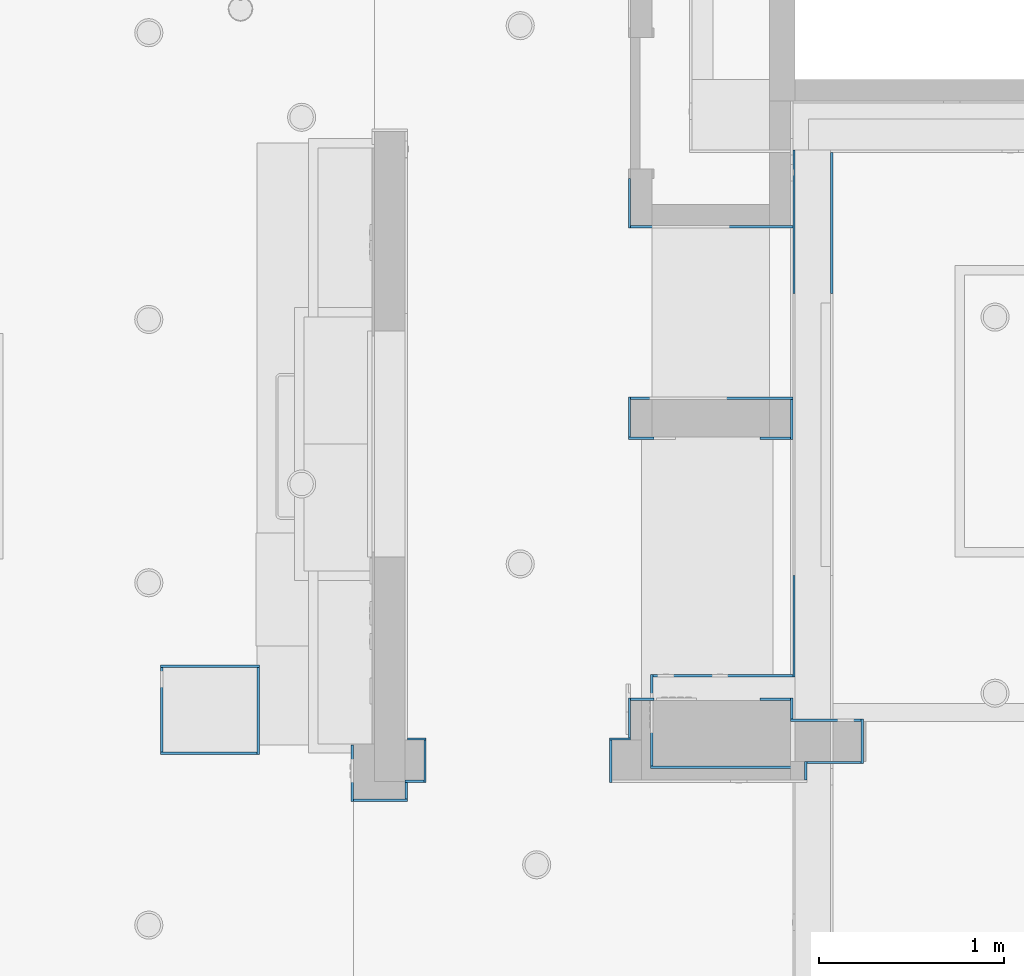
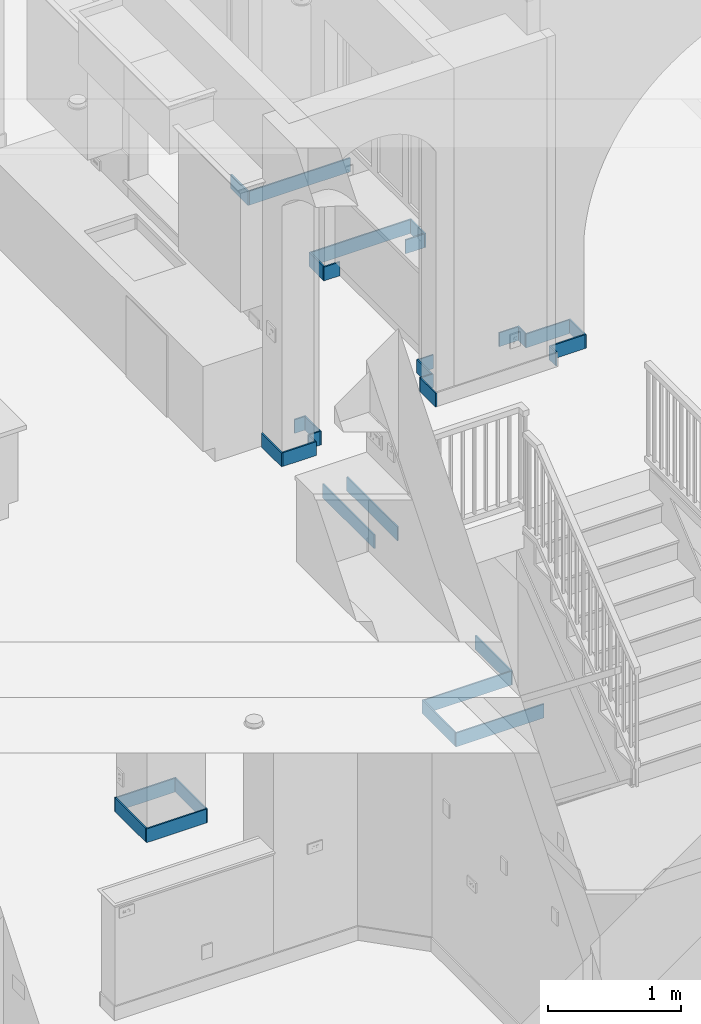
# One storey, part 19 of 81: 33 walls.
"""IFC2X3 building model written with IfcOpenShell, lengths in feet."""

import ifcopenshell
import ifcopenshell.guid

model = None  # the IFC model being written
_history = None  # IfcOwnerHistory: only IFC2X3 demands one
_inside = {}  # id of a spatial element -> (the spatial element, [elements in it])
_under = {}  # id of a project, library or spatial element -> (it, [spatial elements below it])
_declared = {}  # id of a project -> (the project, [libraries it declares])
_typed = {}  # id of a type object -> (the type object, [elements of that type])
_made_of = {}  # id of a material, layer set ... -> (it, [elements and type objects made of it])


def new_model(schema):
    """Start an empty IFC model of exactly this schema.

    Asked for "IFC4X3", IfcOpenShell would pick the latest addendum, in which some entities
    have other attributes; the version numbers below select the first issue.
    IFC2X3 requires an IfcOwnerHistory on every rooted entity: one is made here for all.
    """
    global model, _history
    if schema == "IFC4X3":
        model = ifcopenshell.file(schema_version=(4, 3, 0, 0))
    else:
        model = ifcopenshell.file(schema=schema)
    _inside.clear()
    _under.clear()
    _declared.clear()
    _typed.clear()
    _made_of.clear()
    _history = None
    if model.schema == "IFC2X3":
        org = make("IfcOrganization", Name="unknown")
        user = make(
            "IfcPersonAndOrganization",
            ThePerson=make("IfcPerson", FamilyName="unknown"),
            TheOrganization=org,
        )
        app = make(
            "IfcApplication",
            ApplicationDeveloper=org,
            Version="unknown",
            ApplicationFullName="unknown",
            ApplicationIdentifier="unknown",
        )
        _history = make(
            "IfcOwnerHistory",
            OwningUser=user,
            OwningApplication=app,
            ChangeAction="ADDED",
            CreationDate=0,
        )
    return model


def make(cls, **values):
    """One entity of the class cls with the attributes given. An attribute that is None is left unset."""
    return model.create_entity(
        cls, **{name: value for name, value in values.items() if value is not None}
    )


def entity(cls, *values):
    """Any entity or typed value of the class cls, its attributes in the order of the schema. None: left unset."""
    e = model.create_entity(cls)
    for i, value in enumerate(values):
        if value is not None:
            e[i] = value
    return e


def rooted(cls, **values):
    """An entity with a GlobalId (a new one), such as an element, a storey or a relation."""
    return make(cls, GlobalId=ifcopenshell.guid.new(), OwnerHistory=_history, **values)


def si_unit(unit_type, name, prefix=None):
    """IfcSIUnit, for example si_unit("LENGTHUNIT", "METRE", prefix="MILLI")."""
    return make("IfcSIUnit", UnitType=unit_type, Prefix=prefix, Name=name)


def converted_unit(unit_type, name, factor, base, dimensions=None, offset=None):
    """IfcConversionBasedUnit, such as the inch: factor (a typed value) times the base unit."""
    return make(
        "IfcConversionBasedUnit"
        if offset is None
        else "IfcConversionBasedUnitWithOffset",
        ConversionOffset=offset,
        Dimensions=None
        if dimensions is None
        else entity("IfcDimensionalExponents", *dimensions),
        UnitType=unit_type,
        Name=name,
        ConversionFactor=make(
            "IfcMeasureWithUnit", ValueComponent=factor, UnitComponent=base
        ),
    )


def derived_unit(unit_type, elements):
    """IfcDerivedUnit: a product of units, each with its exponent."""
    return make(
        "IfcDerivedUnit",
        Elements=[
            make("IfcDerivedUnitElement", Unit=unit, Exponent=power)
            for unit, power in elements
        ],
        UnitType=unit_type,
    )


def assignment(units):
    """IfcUnitAssignment: the units of a project."""
    return None if units is None else make("IfcUnitAssignment", Units=units)


def point(xyz):
    """IfcCartesianPoint."""
    return None if xyz is None else make("IfcCartesianPoint", Coordinates=xyz)


def direction(xyz):
    """IfcDirection."""
    return None if xyz is None else make("IfcDirection", DirectionRatios=xyz)


def frame(location, z_axis=None, x_axis=None):
    """IfcAxis2Placement3D, a coordinate frame: its origin and axes. An axis left out is left unset."""
    return make(
        "IfcAxis2Placement3D",
        Location=point(location),
        Axis=direction(z_axis),
        RefDirection=direction(x_axis),
    )


def frame_2d(location, x_axis=None):
    """IfcAxis2Placement2D, a coordinate frame in the plane: its origin and x axis."""
    return make(
        "IfcAxis2Placement2D", Location=point(location), RefDirection=direction(x_axis)
    )


def origin():
    """The frame at (0, 0, 0) with its axes left unset."""
    return frame((0.0, 0.0, 0.0))


def place(relative_to, where):
    """IfcLocalPlacement: puts the frame where relative to a parent placement (None: the world)."""
    return make(
        "IfcLocalPlacement", PlacementRelTo=relative_to, RelativePlacement=where
    )


def context(
    kind, dimensions, precision=None, world=None, true_north=None, identifier=None
):
    """IfcGeometricRepresentationContext, for example the 3D "Model" context."""
    return make(
        "IfcGeometricRepresentationContext",
        ContextIdentifier=identifier,
        ContextType=kind,
        CoordinateSpaceDimension=dimensions,
        Precision=precision,
        WorldCoordinateSystem=world,
        TrueNorth=true_north,
    )


def subcontext(parent, identifier, kind, view, scale=None):
    """IfcGeometricRepresentationSubContext, for example "Body" below "Model"."""
    return make(
        "IfcGeometricRepresentationSubContext",
        ContextIdentifier=identifier,
        ContextType=kind,
        ParentContext=parent,
        TargetScale=scale,
        TargetView=view,
    )


def project(units=None, contexts=None):
    """IfcProject with its units and contexts."""
    return rooted(
        "IfcProject",
        Name="project",
        RepresentationContexts=contexts,
        UnitsInContext=assignment(units),
    )


def spatial(cls, under=None, at=None, **own):
    """A site, building, storey or space (cls), placed at a placement, below another one or the project."""
    s = rooted(cls, ObjectPlacement=at, **own)
    if under is not None:
        _under.setdefault(under.id(), (under, []))[1].append(s)
    return s


def profile(cls, at=None, kind="AREA", **sizes):
    """A parametric profile (cls). Its sizes go by their IFC names, for example OverallWidth=200.0."""
    return make(cls, ProfileType=kind, Position=at, **sizes)


def rectangle(**sizes):
    """IfcRectangleProfileDef."""
    return profile("IfcRectangleProfileDef", **sizes)


def extrude(swept, where, along, depth):
    """IfcExtrudedAreaSolid: the profile swept, set in the frame where, extruded along a direction by depth."""
    return make(
        "IfcExtrudedAreaSolid",
        SweptArea=swept,
        Position=where,
        ExtrudedDirection=direction(along),
        Depth=depth,
    )


def shape(context_of_items, identifier, shape_type, items):
    """IfcShapeRepresentation: the items that make up one representation, for example the "Body"."""
    return make(
        "IfcShapeRepresentation",
        ContextOfItems=context_of_items,
        RepresentationIdentifier=identifier,
        RepresentationType=shape_type,
        Items=items,
    )


def material(Name=None, Category=None):
    """IfcMaterial."""
    return make("IfcMaterial", Name=Name, Category=Category)


def layer(
    of_material, thickness, ventilated=None, Name=None, Category=None, Priority=None
):
    """IfcMaterialLayer: one layer of a wall or slab, of a material (None: an air gap)."""
    return make(
        "IfcMaterialLayer",
        Material=of_material,
        LayerThickness=thickness,
        IsVentilated=ventilated,
        Name=Name,
        Category=Category,
        Priority=Priority,
    )


def layer_set(layers, Name=None):
    """IfcMaterialLayerSet."""
    return make("IfcMaterialLayerSet", MaterialLayers=layers, LayerSetName=Name)


def layer_usage(for_layer_set, set_direction, sense, offset, extent=None):
    """IfcMaterialLayerSetUsage: how a layer set lies in its element."""
    return make(
        "IfcMaterialLayerSetUsage",
        ForLayerSet=for_layer_set,
        LayerSetDirection=set_direction,
        DirectionSense=sense,
        OffsetFromReferenceLine=offset,
        ReferenceExtent=extent,
    )


def made_of(thing, what):
    """Note that an element or type object is made of a material, layer set ...; save() writes the relation."""
    if what is not None:
        _made_of.setdefault(what.id(), (what, []))[1].append(thing)
    return thing


def type_object(cls, material=None, **own):
    """A type object (cls), such as IfcWallType, which elements share."""
    return made_of(rooted(cls, **own), material)


def element(
    cls,
    number,
    at=None,
    inside=None,
    cuts=None,
    type_object=None,
    material=None,
    context=None,
    identifier="Body",
    shape_type=None,
    held_by="IfcProductDefinitionShape",
    body=None,
    shapes=None,
    **own,
):
    """One element of the class cls, such as IfcWall. Its Tag is "e" and its number.

    at: its placement. inside: the storey or other place that contains it. cuts: it is an
    opening in that element (IfcRelVoidsElement). A single representation is given by context,
    identifier, shape_type and body (its items); several are given by shapes. held_by: the class
    of the entity that holds the representations. save() writes the other relations.
    """
    e = rooted(cls, Tag="e%d" % number, ObjectPlacement=at, **own)
    if body is not None:
        shapes = [shape(context, identifier, shape_type, body)]
    if shapes is not None:
        e.Representation = make(held_by, Representations=shapes)
    if inside is not None:
        _inside.setdefault(inside.id(), (inside, []))[1].append(e)
    if cuts is not None:
        rooted(
            "IfcRelVoidsElement", RelatingBuildingElement=cuts, RelatedOpeningElement=e
        )
    if type_object is not None:
        _typed.setdefault(type_object.id(), (type_object, []))[1].append(e)
    return made_of(e, material)


def aggregate(whole, parts):
    """IfcRelAggregates: a whole, such as a stair, and the parts it consists of."""
    return rooted("IfcRelAggregates", RelatingObject=whole, RelatedObjects=parts)


def save(model, path):
    """Write the relations noted so far, then the file.

    IfcRelAggregates (storeys below a building ...), IfcRelContainedInSpatialStructure (elements
    in a storey), IfcRelDefinesByType, IfcRelAssociatesMaterial and IfcRelDeclares: one each for
    every whole, place, type object, material and project.
    """
    for whole, parts in _under.values():
        aggregate(whole, parts)
    for where, things in _inside.values():
        rooted(
            "IfcRelContainedInSpatialStructure",
            RelatedElements=things,
            RelatingStructure=where,
        )
    for kind, things in _typed.values():
        rooted("IfcRelDefinesByType", RelatedObjects=things, RelatingType=kind)
    for what, things in _made_of.values():
        rooted("IfcRelAssociatesMaterial", RelatedObjects=things, RelatingMaterial=what)
    for by, libraries in _declared.values():
        rooted("IfcRelDeclares", RelatingContext=by, RelatedDefinitions=libraries)
    model.write(path)


model = new_model("IFC2X3")

# Units and contexts
model_context = context("Model", 3, precision=0.0001, world=origin(), true_north=direction((6.12303176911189e-17, 1.0)))
body_context = subcontext(model_context, "Body", "Model", "MODEL_VIEW")
ifc_project = project(units=[converted_unit("LENGTHUNIT", "FOOT", entity("IfcRatioMeasure", 0.3048), si_unit("LENGTHUNIT", "METRE"), dimensions=[1, 0, 0, 0, 0, 0, 0]), converted_unit("AREAUNIT", "SQUARE FOOT", entity("IfcRatioMeasure", 0.09290304), si_unit("AREAUNIT", "SQUARE_METRE"), dimensions=[2, 0, 0, 0, 0, 0, 0]), converted_unit("VOLUMEUNIT", "CUBIC FOOT", entity("IfcRatioMeasure", 0.028316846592), si_unit("VOLUMEUNIT", "CUBIC_METRE"), dimensions=[3, 0, 0, 0, 0, 0, 0]), converted_unit("PLANEANGLEUNIT", "DEGREE", entity("IfcRatioMeasure", 0.0174532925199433), si_unit("PLANEANGLEUNIT", "RADIAN"), dimensions=[0, 0, 0, 0, 0, 0, 0]), si_unit("MASSUNIT", "GRAM", prefix="KILO"), derived_unit("MASSDENSITYUNIT", [(si_unit("MASSUNIT", "GRAM", prefix="KILO"), 1), (si_unit("LENGTHUNIT", "METRE"), -3)]), derived_unit("MOMENTOFINERTIAUNIT", [(si_unit("LENGTHUNIT", "METRE"), 4)]), si_unit("TIMEUNIT", "SECOND"), si_unit("FREQUENCYUNIT", "HERTZ"), si_unit("THERMODYNAMICTEMPERATUREUNIT", "DEGREE_CELSIUS"), derived_unit("THERMALTRANSMITTANCEUNIT", [(si_unit("MASSUNIT", "GRAM", prefix="KILO"), 1), (si_unit("THERMODYNAMICTEMPERATUREUNIT", "KELVIN"), -1), (si_unit("TIMEUNIT", "SECOND"), -3)]), derived_unit("VOLUMETRICFLOWRATEUNIT", [(si_unit("LENGTHUNIT", "METRE"), 3), (si_unit("TIMEUNIT", "SECOND"), -1)]), si_unit("ELECTRICCURRENTUNIT", "AMPERE"), si_unit("ELECTRICVOLTAGEUNIT", "VOLT"), si_unit("POWERUNIT", "WATT"), si_unit("FORCEUNIT", "NEWTON"), si_unit("ILLUMINANCEUNIT", "LUX"), si_unit("LUMINOUSFLUXUNIT", "LUMEN"), si_unit("LUMINOUSINTENSITYUNIT", "CANDELA"), derived_unit("USERDEFINED", [(si_unit("MASSUNIT", "GRAM", prefix="KILO"), -1), (si_unit("LENGTHUNIT", "METRE"), -2), (si_unit("TIMEUNIT", "SECOND"), 3), (si_unit("LUMINOUSFLUXUNIT", "LUMEN"), 1)]), derived_unit("LINEARVELOCITYUNIT", [(si_unit("LENGTHUNIT", "METRE"), 1), (si_unit("TIMEUNIT", "SECOND"), -1)]), si_unit("PRESSUREUNIT", "PASCAL"), derived_unit("USERDEFINED", [(si_unit("LENGTHUNIT", "METRE"), -2), (si_unit("MASSUNIT", "GRAM", prefix="KILO"), 1), (si_unit("TIMEUNIT", "SECOND"), -2)]), derived_unit("LINEARFORCEUNIT", [(si_unit("MASSUNIT", "GRAM", prefix="KILO"), 1), (si_unit("LENGTHUNIT", "METRE"), 1), (si_unit("TIMEUNIT", "SECOND"), -2), (si_unit("LENGTHUNIT", "METRE"), -1)]), derived_unit("PLANARFORCEUNIT", [(si_unit("MASSUNIT", "GRAM", prefix="KILO"), 1), (si_unit("LENGTHUNIT", "METRE"), 1), (si_unit("TIMEUNIT", "SECOND"), -2), (si_unit("LENGTHUNIT", "METRE"), -2)])], contexts=[model_context])

# Site, building, storey
site_placement = place(None, origin())
site = spatial("IfcSite", under=ifc_project, at=site_placement, Name="Default", CompositionType="ELEMENT")
building_placement = place(site_placement, origin())
building = spatial("IfcBuilding", under=site, at=building_placement, CompositionType="ELEMENT")
storey_placement = place(building_placement, origin())
storey = spatial("IfcBuildingStorey", under=building, at=storey_placement, Name="First floor", CompositionType="ELEMENT", Elevation=0.0)

# Walls
ifc_material = material(Name="Default New Material")
ifc_layer = layer(ifc_material, 0.0416666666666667)
ifc_layer_set = layer_set([ifc_layer], Name="Basic Wall:Wall Border_T1")
ifc_layer_usage_1 = layer_usage(ifc_layer_set, "AXIS2", "NEGATIVE", 0.0208333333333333)
wall_type = type_object("IfcWallType", Name="Basic Wall:Wall Border_T1", PredefinedType="STANDARD", material=ifc_layer_set)
wall_1_placement = place(storey_placement, frame((21.0208333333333, 26.8333333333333, 0.0), z_axis=(0.0, 0.0, 1.0), x_axis=(0.0, -1.0, 0.0)))
element("IfcWallStandardCase", 1, at=wall_1_placement, inside=storey, type_object=wall_type, material=ifc_layer_usage_1, Name="Basic Wall:Wall Border_T1", ObjectType="Basic Wall:Wall Border_T1", context=body_context, shape_type="SweptSolid", body=[
    extrude(rectangle(XDim=2.49999999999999, YDim=0.0416666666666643, at=frame_2d((1.24999999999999, -1.11022302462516e-16), x_axis=(-1.0, 0.0))), origin(), (0.0, 0.0, 1.0), 0.416666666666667),
])
ifc_layer_usage_2 = layer_usage(ifc_layer_set, "AXIS2", "POSITIVE", -0.0208333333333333)
wall_2_placement = place(storey_placement, frame((20.3541666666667, 26.875, 0.0), z_axis=(0.0, 0.0, 1.0), x_axis=(0.0, -1.0, 0.0)))
element("IfcWallStandardCase", 2, at=wall_2_placement, inside=storey, type_object=wall_type, material=ifc_layer_usage_2, Name="Basic Wall:Wall Border_T1", ObjectType="Basic Wall:Wall Border_T1", context=body_context, shape_type="SweptSolid", body=[
    extrude(rectangle(XDim=2.54166666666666, YDim=0.0416666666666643, at=frame_2d((1.27083333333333, 1.57859836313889e-16), x_axis=(-1.0, 0.0))), origin(), (0.0, 0.0, 1.0), 0.416666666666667),
])
ifc_layer_usage_3 = layer_usage(ifc_layer_set, "AXIS2", "NEGATIVE", 0.0208333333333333)
wall_3_placement = place(storey_placement, frame((9.12500000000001, 17.7291666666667, 0.0)))
element("IfcWallStandardCase", 3, at=wall_3_placement, inside=storey, type_object=wall_type, material=ifc_layer_usage_3, Name="Basic Wall:Wall Border_T1", ObjectType="Basic Wall:Wall Border_T1", context=body_context, shape_type="SweptSolid", body=[
    extrude(rectangle(XDim=1.75, YDim=0.0416666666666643, at=frame_2d((0.875, 1.76941794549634e-16), x_axis=(-1.0, 0.0))), origin(), (0.0, 0.0, 1.0), 0.416666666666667),
])
ifc_layer_usage_4 = layer_usage(ifc_layer_set, "AXIS2", "NEGATIVE", 0.0208333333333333)
wall_4_placement = place(storey_placement, frame((10.8541666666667, 17.7083333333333, 0.0), z_axis=(0.0, 0.0, 1.0), x_axis=(0.0, -1.0, 0.0)))
element("IfcWallStandardCase", 4, at=wall_4_placement, inside=storey, type_object=wall_type, material=ifc_layer_usage_4, Name="Basic Wall:Wall Border_T1", ObjectType="Basic Wall:Wall Border_T1", context=body_context, shape_type="SweptSolid", body=[
    extrude(rectangle(XDim=1.54166666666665, YDim=0.0416666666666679, at=frame_2d((0.770833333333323, 2.42861286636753e-17), x_axis=(-1.0, 0.0))), origin(), (0.0, 0.0, 1.0), 0.416666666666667),
])
ifc_layer_usage_5 = layer_usage(ifc_layer_set, "AXIS2", "NEGATIVE", 0.0208333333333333)
wall_5_placement = place(storey_placement, frame((10.8333333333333, 16.1875, 0.0), z_axis=(0.0, 0.0, 1.0), x_axis=(-1.0, 0.0, 0.0)))
element("IfcWallStandardCase", 5, at=wall_5_placement, inside=storey, type_object=wall_type, material=ifc_layer_usage_5, Name="Basic Wall:Wall Border_T1", ObjectType="Basic Wall:Wall Border_T1", context=body_context, shape_type="SweptSolid", body=[
    extrude(rectangle(XDim=1.70833333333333, YDim=0.0416666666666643, at=frame_2d((0.854166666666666, 8.84708972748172e-17), x_axis=(-1.0, 0.0))), origin(), (0.0, 0.0, 1.0), 0.416666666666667),
])
ifc_layer_usage_6 = layer_usage(ifc_layer_set, "AXIS2", "NEGATIVE", 0.0208333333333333)
wall_6_placement = place(storey_placement, frame((9.14583333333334, 16.2083333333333, 0.0), z_axis=(0.0, 0.0, 1.0), x_axis=(0.0, 1.0, 0.0)))
element("IfcWallStandardCase", 6, at=wall_6_placement, inside=storey, type_object=wall_type, material=ifc_layer_usage_6, Name="Basic Wall:Wall Border_T1", ObjectType="Basic Wall:Wall Border_T1", context=body_context, shape_type="SweptSolid", body=[
    extrude(rectangle(XDim=1.49999999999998, YDim=0.0416666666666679, at=frame_2d((0.749999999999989, 0.0), x_axis=(-1.0, 0.0))), origin(), (0.0, 0.0, 1.0), 0.416666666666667),
])
ifc_layer_usage_7 = layer_usage(ifc_layer_set, "AXIS2", "POSITIVE", -0.0208333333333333)
wall_7_placement = place(storey_placement, frame((20.3541666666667, 19.3333333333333, 0.0), z_axis=(0.0, 0.0, 1.0), x_axis=(0.0, -1.0, 0.0)))
element("IfcWallStandardCase", 7, at=wall_7_placement, inside=storey, type_object=wall_type, material=ifc_layer_usage_7, Name="Basic Wall:Wall Border_T1", ObjectType="Basic Wall:Wall Border_T1", context=body_context, shape_type="SweptSolid", body=[
    extrude(rectangle(XDim=1.79166666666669, YDim=0.0416666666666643, at=frame_2d((0.895833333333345, -4.1286418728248e-16), x_axis=(-1.0, 0.0))), origin(), (0.0, 0.0, 1.0), 0.416666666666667),
])
ifc_layer_usage_8 = layer_usage(ifc_layer_set, "AXIS2", "NEGATIVE", 0.0208333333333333)
wall_8_placement = place(storey_placement, frame((13.5000000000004, 16.4371548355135, 10.6666666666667)))
element("IfcWallStandardCase", 8, at=wall_8_placement, inside=storey, type_object=wall_type, material=ifc_layer_usage_8, Name="Basic Wall:Wall Border_T1", ObjectType="Basic Wall:Wall Border_T1", context=body_context, shape_type="SweptSolid", body=[
    extrude(rectangle(XDim=0.333333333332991, YDim=0.0416666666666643, at=frame_2d((0.166666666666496, 0.0), x_axis=(-1.0, 0.0))), origin(), (0.0, 0.0, 1.0), 0.416666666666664),
])
ifc_layer_usage_9 = layer_usage(ifc_layer_set, "AXIS2", "NEGATIVE", 0.0208333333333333)
wall_9_placement = place(storey_placement, frame((13.8125, 16.4163215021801, 10.6666666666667), z_axis=(0.0, 0.0, 1.0), x_axis=(0.0, -1.0, 0.0)))
element("IfcWallStandardCase", 9, at=wall_9_placement, inside=storey, type_object=wall_type, material=ifc_layer_usage_9, Name="Basic Wall:Wall Border_T1", ObjectType="Basic Wall:Wall Border_T1", context=body_context, shape_type="SweptSolid", body=[
    extrude(rectangle(XDim=0.75, YDim=0.0416666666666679, at=frame_2d((0.375, -2.28983498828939e-16), x_axis=(-1.0, 0.0))), origin(), (0.0, 0.0, 1.0), 0.416666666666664),
])
ifc_layer_usage_10 = layer_usage(ifc_layer_set, "AXIS2", "NEGATIVE", 0.0208333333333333)
wall_10_placement = place(storey_placement, frame((13.7916666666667, 15.6871548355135, 10.6666666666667), z_axis=(0.0, 0.0, 1.0), x_axis=(-1.0, 0.0, 0.0)))
element("IfcWallStandardCase", 10, at=wall_10_placement, inside=storey, type_object=wall_type, material=ifc_layer_usage_10, Name="Basic Wall:Wall Border_T1", ObjectType="Basic Wall:Wall Border_T1", context=body_context, shape_type="SweptSolid", body=[
    extrude(rectangle(XDim=0.333333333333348, YDim=0.0416666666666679, at=frame_2d((0.166666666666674, 3.59087759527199e-16), x_axis=(-1.0, 0.0))), origin(), (0.0, 0.0, 1.0), 0.416666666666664),
])
ifc_layer_usage_11 = layer_usage(ifc_layer_set, "AXIS2", "POSITIVE", -0.0208333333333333)
wall_11_placement = place(storey_placement, frame((17.4375, 26.3746548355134, 10.6666666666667), z_axis=(0.0, 0.0, 1.0), x_axis=(0.0, -1.0, 0.0)))
element("IfcWallStandardCase", 11, at=wall_11_placement, inside=storey, type_object=wall_type, material=ifc_layer_usage_11, Name="Basic Wall:Wall Border_T1", ObjectType="Basic Wall:Wall Border_T1", context=body_context, shape_type="SweptSolid", body=[
    extrude(rectangle(XDim=0.874999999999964, YDim=0.0416666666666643, at=frame_2d((0.437499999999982, 0.0), x_axis=(-1.0, 0.0))), origin(), (0.0, 0.0, 1.0), 0.416666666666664),
])
ifc_layer_usage_12 = layer_usage(ifc_layer_set, "AXIS2", "POSITIVE", -0.0208333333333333)
wall_12_placement = place(storey_placement, frame((17.4583333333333, 25.5204881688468, 10.6666666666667)))
element("IfcWallStandardCase", 12, at=wall_12_placement, inside=storey, type_object=wall_type, material=ifc_layer_usage_12, Name="Basic Wall:Wall Border_T1", ObjectType="Basic Wall:Wall Border_T1", context=body_context, shape_type="SweptSolid", body=[
    extrude(rectangle(XDim=2.8749999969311, YDim=0.0416666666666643, at=frame_2d((1.43749999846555, 7.80625564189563e-17), x_axis=(-1.0, 0.0))), origin(), (0.0, 0.0, 1.0), 0.416666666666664),
])
ifc_layer_usage_13 = layer_usage(ifc_layer_set, "AXIS2", "NEGATIVE", 0.0208333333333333)
wall_13_placement = place(storey_placement, frame((17.0833333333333, 16.4371548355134, 10.6666666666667)))
element("IfcWallStandardCase", 13, at=wall_13_placement, inside=storey, type_object=wall_type, material=ifc_layer_usage_13, Name="Basic Wall:Wall Border_T1", ObjectType="Basic Wall:Wall Border_T1", context=body_context, shape_type="SweptSolid", body=[
    extrude(rectangle(XDim=0.374999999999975, YDim=0.0416666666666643, at=frame_2d((0.187499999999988, 0.0), x_axis=(-1.0, 0.0))), origin(), (0.0, 0.0, 1.0), 0.416666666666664),
])
ifc_layer_usage_14 = layer_usage(ifc_layer_set, "AXIS2", "NEGATIVE", 0.0208333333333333)
wall_14_placement = place(storey_placement, frame((17.4375, 16.4579881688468, 10.6666666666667), z_axis=(0.0, 0.0, 1.0), x_axis=(0.0, 1.0, 0.0)))
element("IfcWallStandardCase", 14, at=wall_14_placement, inside=storey, type_object=wall_type, material=ifc_layer_usage_14, Name="Basic Wall:Wall Border_T1", ObjectType="Basic Wall:Wall Border_T1", context=body_context, shape_type="SweptSolid", body=[
    extrude(rectangle(XDim=0.708333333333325, YDim=0.0416666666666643, at=frame_2d((0.354166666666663, 0.0), x_axis=(-1.0, 0.0))), origin(), (0.0, 0.0, 1.0), 0.416666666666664),
])
ifc_layer_usage_15 = layer_usage(ifc_layer_set, "AXIS2", "POSITIVE", -0.0208333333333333)
wall_15_placement = place(storey_placement, frame((17.1041666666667, 16.4163215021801, 10.6666666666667), z_axis=(0.0, 0.0, 1.0), x_axis=(0.0, -1.0, 0.0)))
element("IfcWallStandardCase", 15, at=wall_15_placement, inside=storey, type_object=wall_type, material=ifc_layer_usage_15, Name="Basic Wall:Wall Border_T1", ObjectType="Basic Wall:Wall Border_T1", context=body_context, shape_type="SweptSolid", body=[
    extrude(rectangle(XDim=0.749999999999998, YDim=0.0416666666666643, at=frame_2d((0.374999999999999, 0.0), x_axis=(-1.0, 0.0))), origin(), (0.0, 0.0, 1.0), 0.416666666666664),
])
ifc_layer_usage_16 = layer_usage(ifc_layer_set, "AXIS2", "POSITIVE", -0.0208333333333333)
wall_16_placement = place(storey_placement, frame((20.5624999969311, 15.7079881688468, 10.6666666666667), z_axis=(0.0, 0.0, 1.0), x_axis=(0.0, 1.0, 0.0)))
element("IfcWallStandardCase", 16, at=wall_16_placement, inside=storey, type_object=wall_type, material=ifc_layer_usage_16, Name="Basic Wall:Wall Border_T1", ObjectType="Basic Wall:Wall Border_T1", context=body_context, shape_type="SweptSolid", body=[
    extrude(rectangle(XDim=0.333678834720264, YDim=0.0416666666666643, at=frame_2d((0.166839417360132, 0.0), x_axis=(-1.0, 0.0))), origin(), (0.0, 0.0, 1.0), 0.416666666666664),
])
ifc_layer_usage_17 = layer_usage(ifc_layer_set, "AXIS2", "POSITIVE", -0.0208333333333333)
wall_17_placement = place(storey_placement, frame((20.5833333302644, 16.0208336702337, 10.6666666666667)))
element("IfcWallStandardCase", 17, at=wall_17_placement, inside=storey, type_object=wall_type, material=ifc_layer_usage_17, Name="Basic Wall:Wall Border_T1", ObjectType="Basic Wall:Wall Border_T1", context=body_context, shape_type="SweptSolid", body=[
    extrude(rectangle(XDim=0.958834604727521, YDim=0.0416666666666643, at=frame_2d((0.47941730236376, -7.45931094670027e-17), x_axis=(-1.0, 0.0))), origin(), (0.0, 0.0, 1.0), 0.416666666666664),
])
ifc_layer_usage_18 = layer_usage(ifc_layer_set, "AXIS2", "POSITIVE", -0.0208333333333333)
wall_18_placement = place(storey_placement, frame((21.542167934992, 16.7708336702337, 10.6666666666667), z_axis=(0.0, 0.0, 1.0), x_axis=(-1.0, 0.0, 0.0)))
element("IfcWallStandardCase", 18, at=wall_18_placement, inside=storey, type_object=wall_type, material=ifc_layer_usage_18, Name="Basic Wall:Wall Border_T1", ObjectType="Basic Wall:Wall Border_T1", context=body_context, shape_type="SweptSolid", body=[
    extrude(rectangle(XDim=1.2505012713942, YDim=0.0416666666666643, at=frame_2d((0.6252506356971, -5.72458747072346e-17), x_axis=(-1.0, 0.0))), origin(), (0.0, 0.0, 1.0), 0.416666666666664),
])
ifc_layer_usage_19 = layer_usage(ifc_layer_set, "AXIS2", "POSITIVE", -0.0208333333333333)
wall_19_placement = place(storey_placement, frame((20.3124999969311, 16.791667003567, 10.6666666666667), z_axis=(0.0, 0.0, 1.0), x_axis=(0.0, 1.0, 0.0)))
element("IfcWallStandardCase", 19, at=wall_19_placement, inside=storey, type_object=wall_type, material=ifc_layer_usage_19, Name="Basic Wall:Wall Border_T1", ObjectType="Basic Wall:Wall Border_T1", context=body_context, shape_type="SweptSolid", body=[
    extrude(rectangle(XDim=0.374654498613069, YDim=0.0416666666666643, at=frame_2d((0.187327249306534, 0.0), x_axis=(-1.0, 0.0))), origin(), (0.0, 0.0, 1.0), 0.416666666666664),
])
ifc_layer_usage_20 = layer_usage(ifc_layer_set, "AXIS2", "POSITIVE", -0.0208333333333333)
wall_20_placement = place(storey_placement, frame((20.2916666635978, 17.1454881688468, 10.6666666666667), z_axis=(0.0, 0.0, 1.0), x_axis=(-1.0, 0.0, 0.0)))
element("IfcWallStandardCase", 20, at=wall_20_placement, inside=storey, type_object=wall_type, material=ifc_layer_usage_20, Name="Basic Wall:Wall Border_T1", ObjectType="Basic Wall:Wall Border_T1", context=body_context, shape_type="SweptSolid", body=[
    extrude(rectangle(XDim=0.541666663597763, YDim=0.0416666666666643, at=frame_2d((0.270833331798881, 0.0), x_axis=(-1.0, 0.0))), origin(), (0.0, 0.0, 1.0), 0.416666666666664),
])
ifc_layer_usage_21 = layer_usage(ifc_layer_set, "AXIS2", "NEGATIVE", 0.0208333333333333)
wall_21_placement = place(storey_placement, frame((17.875, 21.7704881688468, 10.6666666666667), z_axis=(0.0, 0.0, 1.0), x_axis=(-1.0, 0.0, 0.0)))
element("IfcWallStandardCase", 21, at=wall_21_placement, inside=storey, type_object=wall_type, material=ifc_layer_usage_21, Name="Basic Wall:Wall Border_T1", ObjectType="Basic Wall:Wall Border_T1", context=body_context, shape_type="SweptSolid", body=[
    extrude(rectangle(XDim=0.45833333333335, YDim=0.0416666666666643, at=frame_2d((0.229166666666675, 0.0), x_axis=(-1.0, 0.0))), origin(), (0.0, 0.0, 1.0), 0.416666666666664),
])
ifc_layer_usage_22 = layer_usage(ifc_layer_set, "AXIS2", "NEGATIVE", 0.0208333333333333)
wall_22_placement = place(storey_placement, frame((17.4375, 21.7913215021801, 10.6666666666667), z_axis=(0.0, 0.0, 1.0), x_axis=(0.0, 1.0, 0.0)))
element("IfcWallStandardCase", 22, at=wall_22_placement, inside=storey, type_object=wall_type, material=ifc_layer_usage_22, Name="Basic Wall:Wall Border_T1", ObjectType="Basic Wall:Wall Border_T1", context=body_context, shape_type="SweptSolid", body=[
    extrude(rectangle(XDim=0.708333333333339, YDim=0.0416666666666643, at=frame_2d((0.35416666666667, 0.0), x_axis=(-1.0, 0.0))), origin(), (0.0, 0.0, 1.0), 0.416666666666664),
])
ifc_layer_usage_23 = layer_usage(ifc_layer_set, "AXIS2", "NEGATIVE", 0.0208333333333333)
wall_23_placement = place(storey_placement, frame((17.4583333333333, 22.4788215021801, 10.6666666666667)))
element("IfcWallStandardCase", 23, at=wall_23_placement, inside=storey, type_object=wall_type, material=ifc_layer_usage_23, Name="Basic Wall:Wall Border_T1", ObjectType="Basic Wall:Wall Border_T1", context=body_context, shape_type="SweptSolid", body=[
    extrude(rectangle(XDim=2.87499999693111, YDim=0.0416666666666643, at=frame_2d((1.43749999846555, 7.80625564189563e-17), x_axis=(-1.0, 0.0))), origin(), (0.0, 0.0, 1.0), 0.416666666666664),
])
ifc_layer_usage_24 = layer_usage(ifc_layer_set, "AXIS2", "NEGATIVE", 0.0208333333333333)
wall_24_placement = place(storey_placement, frame((20.3124999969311, 22.4579881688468, 10.6666666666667), z_axis=(0.0, 0.0, 1.0), x_axis=(0.0, -1.0, 0.0)))
element("IfcWallStandardCase", 24, at=wall_24_placement, inside=storey, type_object=wall_type, material=ifc_layer_usage_24, Name="Basic Wall:Wall Border_T1", ObjectType="Basic Wall:Wall Border_T1", context=body_context, shape_type="SweptSolid", body=[
    extrude(rectangle(XDim=0.708333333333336, YDim=0.0416666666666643, at=frame_2d((0.354166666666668, 0.0), x_axis=(-1.0, 0.0))), origin(), (0.0, 0.0, 1.0), 0.416666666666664),
])
ifc_layer_usage_25 = layer_usage(ifc_layer_set, "AXIS2", "NEGATIVE", 0.0208333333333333)
wall_25_placement = place(storey_placement, frame((20.2916666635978, 21.7704881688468, 10.6666666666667), z_axis=(0.0, 0.0, 1.0), x_axis=(-1.0, 0.0, 0.0)))
element("IfcWallStandardCase", 25, at=wall_25_placement, inside=storey, type_object=wall_type, material=ifc_layer_usage_25, Name="Basic Wall:Wall Border_T1", ObjectType="Basic Wall:Wall Border_T1", context=body_context, shape_type="SweptSolid", body=[
    extrude(rectangle(XDim=0.541666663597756, YDim=0.0416666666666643, at=frame_2d((0.270833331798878, 0.0), x_axis=(-1.0, 0.0))), origin(), (0.0, 0.0, 1.0), 0.416666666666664),
])
ifc_layer_usage_26 = layer_usage(ifc_layer_set, "AXIS2", "POSITIVE", -0.0208333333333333)
wall_26_placement = place(storey_placement, frame((12.5208333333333, 16.3329881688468, 10.6666666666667), z_axis=(0.0, 0.0, 1.0), x_axis=(0.0, -1.0, 0.0)))
element("IfcWallStandardCase", 26, at=wall_26_placement, inside=storey, type_object=wall_type, material=ifc_layer_usage_26, Name="Basic Wall:Wall Border_T1", ObjectType="Basic Wall:Wall Border_T1", context=body_context, shape_type="SweptSolid", body=[
    extrude(rectangle(XDim=0.999999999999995, YDim=0.0416666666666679, at=frame_2d((0.499999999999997, 3.81639164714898e-17), x_axis=(-1.0, 0.0))), origin(), (0.0, 0.0, 1.0), 0.416666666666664),
])
ifc_layer_usage_27 = layer_usage(ifc_layer_set, "AXIS2", "POSITIVE", -0.0208333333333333)
wall_27_placement = place(storey_placement, frame((12.5416666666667, 15.3538215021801, 10.6666666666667)))
element("IfcWallStandardCase", 27, at=wall_27_placement, inside=storey, type_object=wall_type, material=ifc_layer_usage_27, Name="Basic Wall:Wall Border_T1", ObjectType="Basic Wall:Wall Border_T1", context=body_context, shape_type="SweptSolid", body=[
    extrude(rectangle(XDim=0.958333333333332, YDim=0.0416666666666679, at=frame_2d((0.479166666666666, 8.15320033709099e-17), x_axis=(-1.0, 0.0))), origin(), (0.0, 0.0, 1.0), 0.416666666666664),
])
ifc_layer_usage_28 = layer_usage(ifc_layer_set, "AXIS2", "POSITIVE", -0.0208333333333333)
wall_28_placement = place(storey_placement, frame((17.4583333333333, 17.1454881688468, 10.6666666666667)))
element("IfcWallStandardCase", 28, at=wall_28_placement, inside=storey, type_object=wall_type, material=ifc_layer_usage_28, Name="Basic Wall:Wall Border_T1", ObjectType="Basic Wall:Wall Border_T1", context=body_context, shape_type="SweptSolid", body=[
    extrude(rectangle(XDim=0.416666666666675, YDim=0.0416666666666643, at=frame_2d((0.208333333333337, 0.0), x_axis=(-1.0, 0.0))), origin(), (0.0, 0.0, 1.0), 0.416666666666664),
])
ifc_layer_usage_29 = layer_usage(ifc_layer_set, "AXIS2", "NEGATIVE", 0.0208333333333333)
wall_29_placement = place(storey_placement, frame((20.3333333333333, 15.9375, 0.0), z_axis=(0.0, 0.0, 1.0), x_axis=(-1.0, 0.0, 0.0)))
element("IfcWallStandardCase", 29, at=wall_29_placement, inside=storey, type_object=wall_type, material=ifc_layer_usage_29, Name="Basic Wall:Wall Border_T1", ObjectType="Basic Wall:Wall Border_T1", context=body_context, shape_type="SweptSolid", body=[
    extrude(rectangle(XDim=2.5208333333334, YDim=0.0416666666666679, at=frame_2d((1.2604166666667, -6.31439345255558e-16), x_axis=(-1.0, 0.0))), origin(), (0.0, 0.0, 1.0), 0.416666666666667),
])
ifc_layer_usage_30 = layer_usage(ifc_layer_set, "AXIS2", "NEGATIVE", 0.0208333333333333)
wall_30_placement = place(storey_placement, frame((17.8333333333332, 15.9583333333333, 0.0), z_axis=(0.0, 0.0, 1.0), x_axis=(0.0, 1.0, 0.0)))
element("IfcWallStandardCase", 30, at=wall_30_placement, inside=storey, type_object=wall_type, material=ifc_layer_usage_30, Name="Basic Wall:Wall Border_T1", ObjectType="Basic Wall:Wall Border_T1", context=body_context, shape_type="SweptSolid", body=[
    extrude(rectangle(XDim=1.625, YDim=0.0416666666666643, at=frame_2d((0.812500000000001, 1.08246744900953e-15), x_axis=(-1.0, 0.0))), origin(), (0.0, 0.0, 1.0), 0.416666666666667),
])
ifc_layer_usage_31 = layer_usage(ifc_layer_set, "AXIS2", "NEGATIVE", 0.0208333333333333)
wall_31_placement = place(storey_placement, frame((20.3333333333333, 17.5625, 0.0), z_axis=(0.0, 0.0, 1.0), x_axis=(-1.0, 0.0, 0.0)))
element("IfcWallStandardCase", 31, at=wall_31_placement, inside=storey, type_object=wall_type, material=ifc_layer_usage_31, Name="Basic Wall:Wall Border_T1", ObjectType="Basic Wall:Wall Border_T1", context=body_context, shape_type="SweptSolid", body=[
    extrude(rectangle(XDim=2.47916666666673, YDim=0.0416666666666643, at=frame_2d((1.23958333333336, -6.29704621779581e-16), x_axis=(-1.0, 0.0))), origin(), (0.0, 0.0, 1.0), 0.416666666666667),
])
ifc_layer_usage_32 = layer_usage(ifc_layer_set, "AXIS2", "NEGATIVE", 0.0208333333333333)
wall_32_placement = place(storey_placement, frame((13.4791666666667, 15.3746548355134, 10.6666666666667), z_axis=(0.0, 0.0, 1.0), x_axis=(0.0, 1.0, 0.0)))
element("IfcWallStandardCase", 32, at=wall_32_placement, inside=storey, type_object=wall_type, material=ifc_layer_usage_32, Name="Basic Wall:Wall Border_T1", ObjectType="Basic Wall:Wall Border_T1", context=body_context, shape_type="SweptSolid", body=[
    extrude(rectangle(XDim=0.291666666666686, YDim=0.0416666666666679, at=frame_2d((0.145833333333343, 0.0), x_axis=(-1.0, 0.0))), origin(), (0.0, 0.0, 1.0), 0.416666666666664),
])
ifc_layer_usage_33 = layer_usage(ifc_layer_set, "AXIS2", "NEGATIVE", 0.0208333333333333)
wall_33_placement = place(storey_placement, frame((21.5630012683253, 16.0000003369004, 10.6666666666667), z_axis=(0.0, 0.0, 1.0), x_axis=(0.0, 1.0, 0.0)))
element("IfcWallStandardCase", 33, at=wall_33_placement, inside=storey, type_object=wall_type, material=ifc_layer_usage_33, Name="Basic Wall:Wall Border_T1", ObjectType="Basic Wall:Wall Border_T1", context=body_context, shape_type="SweptSolid", body=[
    extrude(rectangle(XDim=0.791666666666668, YDim=0.0416666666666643, at=frame_2d((0.395833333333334, 0.0), x_axis=(-1.0, 0.0))), origin(), (0.0, 0.0, 1.0), 0.416666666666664),
])

save(model, "model.ifc")
